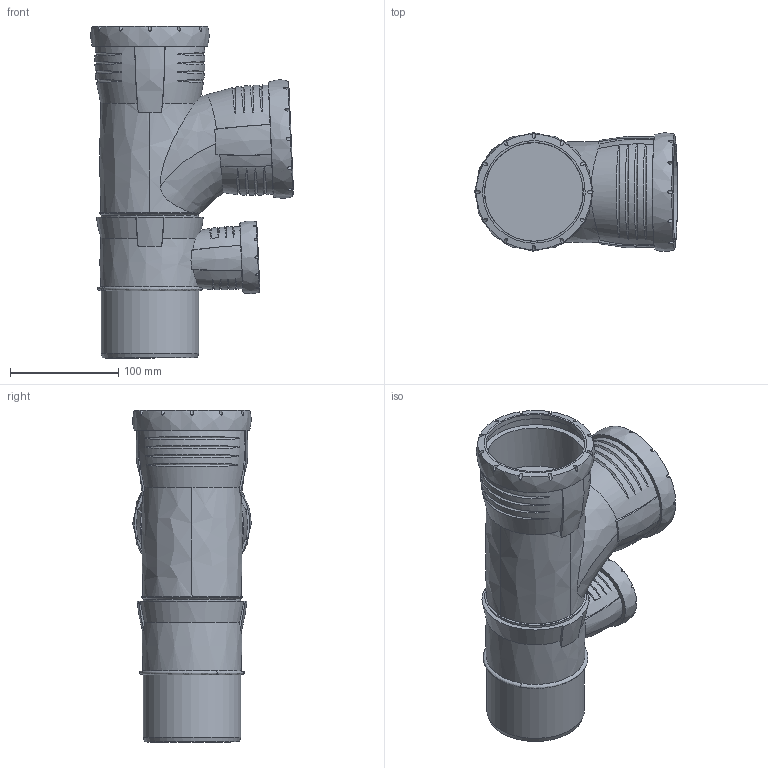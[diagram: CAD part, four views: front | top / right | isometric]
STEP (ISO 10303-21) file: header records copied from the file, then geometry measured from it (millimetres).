
FILE_DESCRIPTION(/* description */ (''),/* implementation_level */ '2;1');
FILE_NAME(/* name */ 'H:\Geberit-Teile\Export\KombiBogAbzw\stp\393456.stp',/* time_stamp */ '2017-10-18T09:54:54+02:00',/* author */ ('seihe2'),/* organization */ (''),/* preprocessor_version */ 'ST-DEVELOPER v15.2',/* originating_system */ 'Autodesk Inventor 2014',/* authorisation */ '');
FILE_SCHEMA (('AUTOMOTIVE_DESIGN { 1 0 10303 214 3 1 1 }'));
Length unit declared in the file: millimetre
Products named in the file (1): 393456
Bounding box: 187.19 x 109.5 x 306.34 mm (x, y, z)
Volume: 1816480.1 mm3; surface area: 221929.3 mm2
Topology: 1 solids, 1 shells, 184 faces, 502 edges, 349 vertices
Faces by surface type: bspline 120, cone 31, cylinder 15, plane 12, torus 6
Full cylindrical faces by diameter (mm): 51 x1, 60.1 x1, 81.6 x1, 90.2 x2, 91.2 x2, 100.2 x2
Entity records: 11191 total; most frequent: CARTESIAN_POINT 7379, ORIENTED_EDGE 922, DIRECTION 477, EDGE_CURVE 461, VERTEX_POINT 334, B_SPLINE_CURVE_WITH_KNOTS 261, EDGE_LOOP 221, AXIS2_PLACEMENT_3D 215
